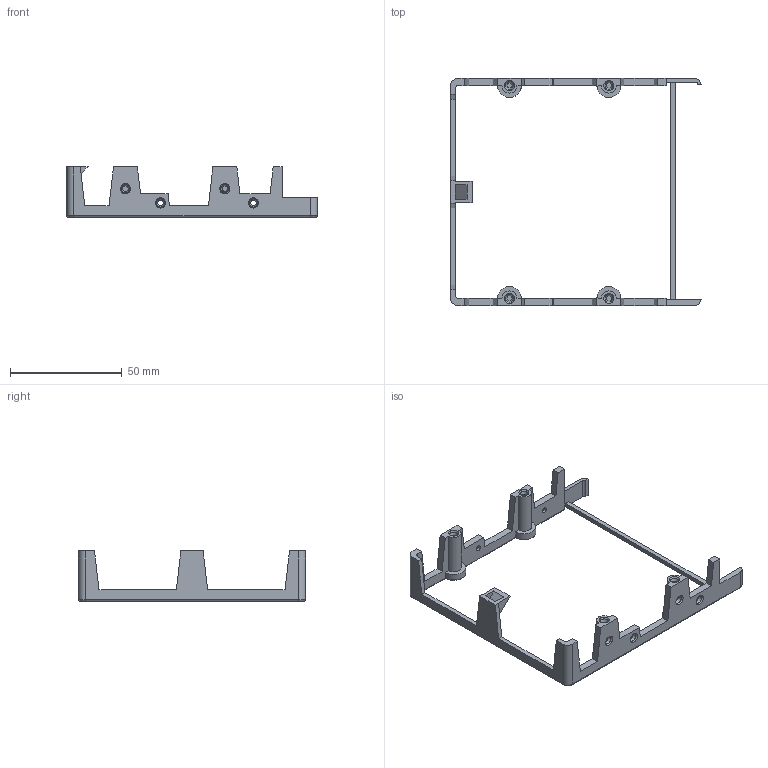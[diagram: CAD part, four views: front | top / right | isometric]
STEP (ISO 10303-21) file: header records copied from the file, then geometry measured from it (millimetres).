
FILE_DESCRIPTION(/* description */ (''),/* implementation_level */ '2;1');
FILE_NAME(/* name */ 'E:/OneDrive/projects/3.5 Hard Drive 50-pin SCSI PCB/123d design/New folder/3.5 Hard Drive Case 50-pin SCSI ED 100 bottom cover openings.stp',/* time_stamp */ '2022-01-04T23:29:49-05:00',/* author */ (''),/* organization */ (''),/* preprocessor_version */ 'ST-DEVELOPER v15.2',/* originating_system */ 'Autodesk Translator Framework v2.0.0.5431',/* authorisation */ '');
FILE_SCHEMA (('AUTOMOTIVE_DESIGN { 1 0 10303 214 3 1 1 }'));
Length unit declared in the file: centimetre
Products named in the file (1): (Unsaved)
Bounding box: 112 x 101.6 x 22.5 mm (x, y, z)
Volume: 12280.9 mm3; surface area: 12088.6 mm2
Topology: 1 solids, 1 shells, 164 faces, 418 edges, 268 vertices
Faces by surface type: plane 81, cylinder 41, cone 32, torus 10
Full cylindrical faces by diameter (mm): 2.5 x4, 2.54 x12
Entity records: 4721 total; most frequent: CARTESIAN_POINT 907, DIRECTION 796, ORIENTED_EDGE 716, EDGE_CURVE 358, AXIS2_PLACEMENT_3D 285, VERTEX_POINT 256, EDGE_LOOP 234, LINE 226
